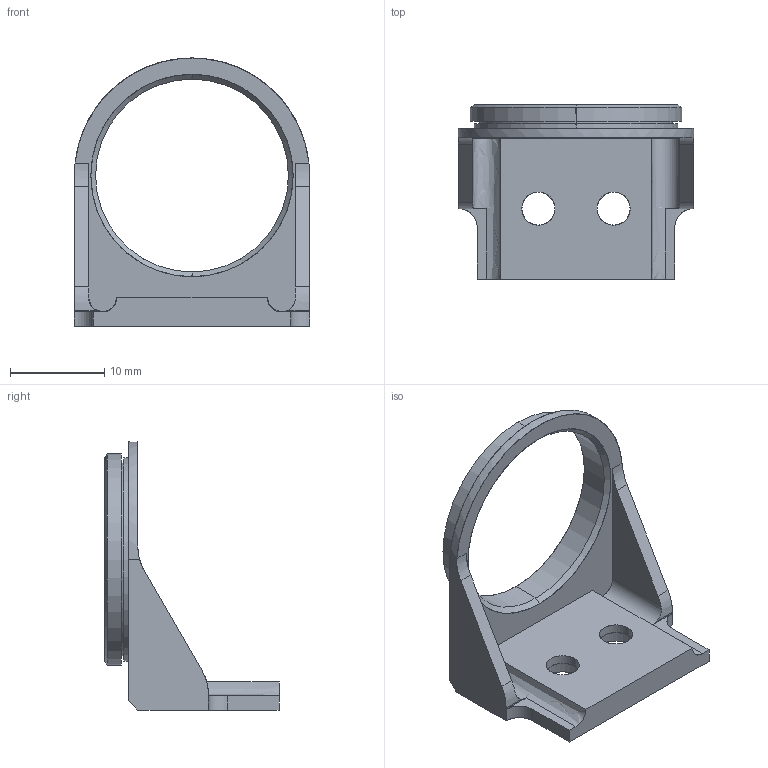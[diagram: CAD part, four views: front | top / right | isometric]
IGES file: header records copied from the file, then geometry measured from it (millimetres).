
Start section: SolidWorks IGES file using analytic representation for surfaces
Global section: file name: C:\Users\user\Downloads\tmpxh5h9ld9\BK?VCOBS1513-TCH65_Drawing_T1301A-A00100.SLDPRT.IGS; native system: SolidWorks 2018; preprocessor: SolidWorks 2018; author: user; date: 250425.152458; units: millimetre
Bounding box: 25 x 18.5 x 28.5 mm (x, y, z)
Surface area: 2126.7 mm2 (no closed solid volume)
Topology: 0 solids, 0 shells, 48 faces, 734 edges, 734 vertices
Faces by surface type: revolution 27, bspline 21
